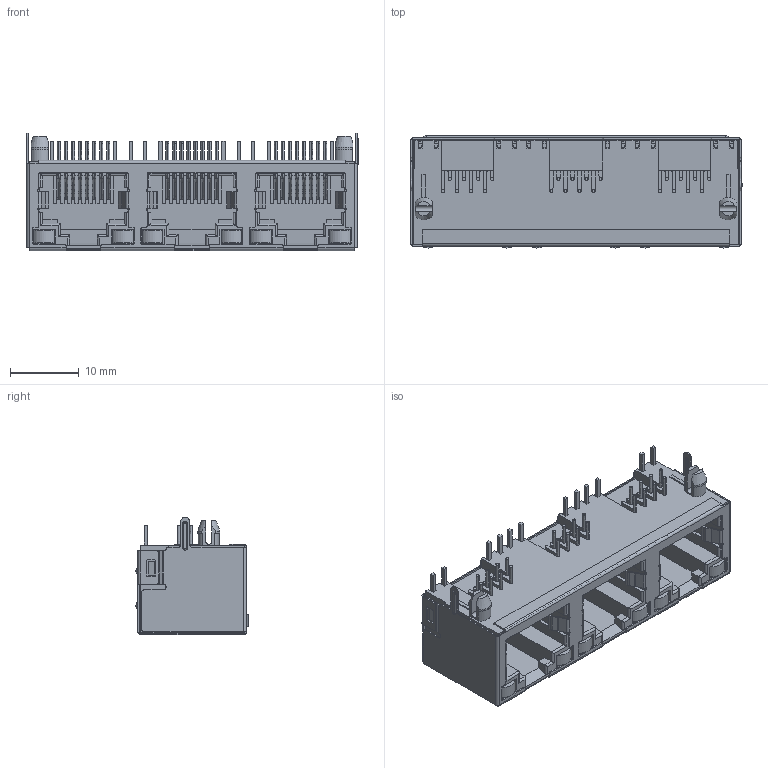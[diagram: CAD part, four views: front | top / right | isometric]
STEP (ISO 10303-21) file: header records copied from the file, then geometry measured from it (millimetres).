
FILE_DESCRIPTION((''),'2;1');
FILE_NAME('56S-LED-1X3-EMI-D0_ASM','2025-07-30T10:23:02',('HQW'),(''),'CREO PARAMETRIC BY PTC INC, 2024153','CREO PARAMETRIC BY PTC INC, 2024153','');
FILE_SCHEMA(('CONFIG_CONTROL_DESIGN','GEOMETRIC_VALIDATION_PROPERTIES_MIM'));
Products named in the file (3): 56LED-1X3-D00; 56-LED-1X3-D000; 56S-LED-1X3-EMI-D0_ASM
Assembly tree (2 placements, depth 2):
  56S-LED-1X3-EMI-D0_ASM
    56LED-1X3-D00
    56-LED-1X3-D000
Bounding box: 48.2 x 16.27 x 17.02 mm (x, y, z)
Volume: 4605 mm3; surface area: 12288.8 mm2
Topology: 8 solids, 8 shells, 1968 faces, 5319 edges, 3311 vertices
Faces by surface type: plane 1273, bspline 348, cylinder 331, torus 12, cone 4
Entity records: 76403 total; most frequent: CARTESIAN_POINT 28768, ORIENTED_EDGE 10638, DIRECTION 8606, EDGE_CURVE 5319, VECTOR 3930, LINE 3930, VERTEX_POINT 3311, AXIS2_PLACEMENT_3D 2338
